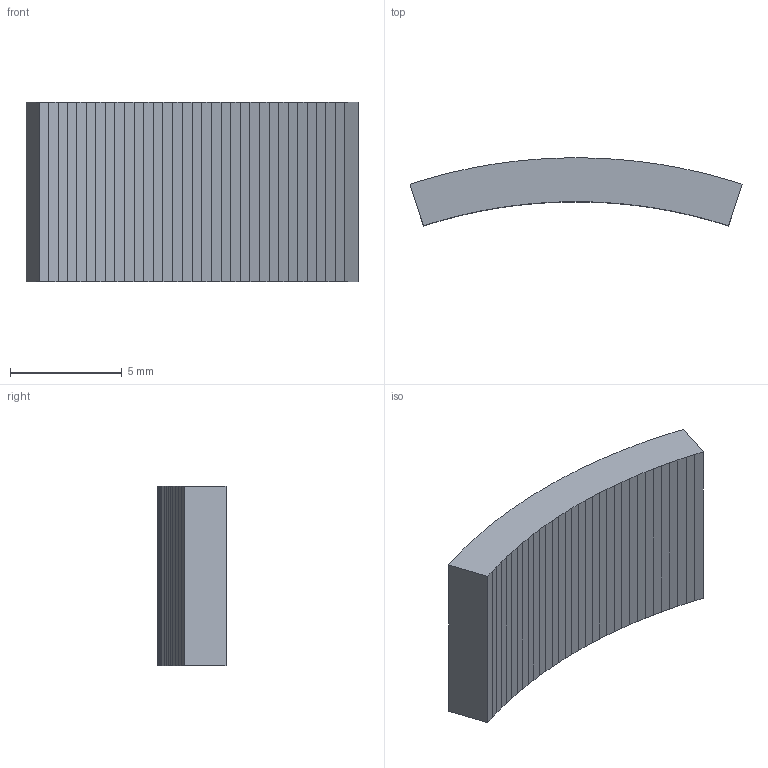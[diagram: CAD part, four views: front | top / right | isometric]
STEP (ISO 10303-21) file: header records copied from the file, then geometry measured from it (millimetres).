
FILE_DESCRIPTION(('Open CASCADE Model'),'2;1');
FILE_NAME('Open CASCADE Shape Model','2026-10-04T01:02:28',('Author'),( 'Open CASCADE'),'Open CASCADE STEP processor 8.0','Open CASCADE 8.0' ,'Unknown');
FILE_SCHEMA(('AUTOMOTIVE_DESIGN { 1 0 10303 214 1 1 1 1 }'));
Length unit declared in the file: millimetre
Products named in the file (1): Open CASCADE STEP translator 8.0 140
Bounding box: 14.83 x 3.04 x 8 mm (x, y, z)
Volume: 226.8 mm3; surface area: 319.5 mm2
Topology: 1 solids, 1 shells, 68 faces, 198 edges, 132 vertices
Faces by surface type: plane 68
Entity records: 4786 total; most frequent: CARTESIAN_POINT 795, DIRECTION 732, LINE 594, VECTOR 594, ORIENTED_EDGE 396, PCURVE 396, DEFINITIONAL_REPRESENTATION 396, EDGE_CURVE 198
